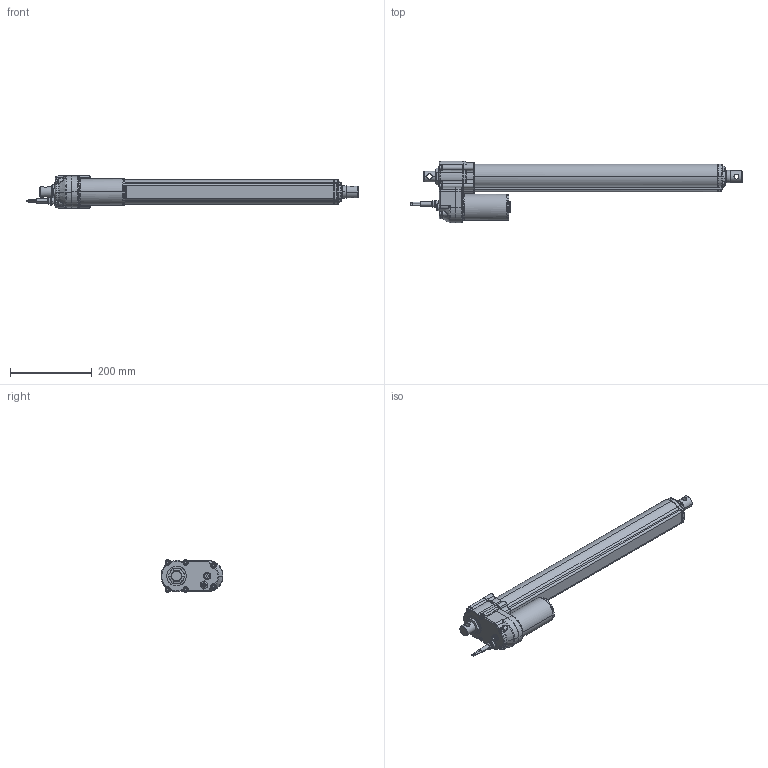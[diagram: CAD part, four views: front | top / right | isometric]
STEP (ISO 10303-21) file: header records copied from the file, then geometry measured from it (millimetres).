
FILE_DESCRIPTION(('STEP AP203'),'1');
FILE_NAME('LINACT-33P-500MM.stp','2025-11-20T12:31:31',('Linear Actuators S.A.'),('Linear Actuators South Africa (Pty) Ltd'),'Spatial InterOp 3D',' ',' ');
FILE_SCHEMA(('CONFIG_CONTROL_DESIGN'));
Length unit declared in the file: millimetre
Products named in the file (1): 1
Bounding box: 811.27 x 151.4 x 79 mm (x, y, z)
Volume: 3135745.4 mm3; surface area: 216479.6 mm2
Topology: 1 solids, 1 shells, 940 faces, 2391 edges, 1467 vertices
Faces by surface type: torus 294, plane 239, cylinder 234, bspline 105, cone 66, sphere 2
Entity records: 41074 total; most frequent: CARTESIAN_POINT 19629, ORIENTED_EDGE 4728, DIRECTION 4260, EDGE_CURVE 2364, AXIS2_PLACEMENT_3D 1786, VERTEX_POINT 1467, EDGE_LOOP 985, CIRCLE 942
